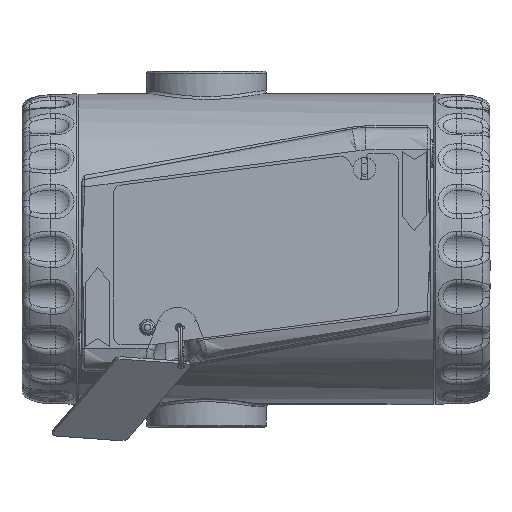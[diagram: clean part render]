
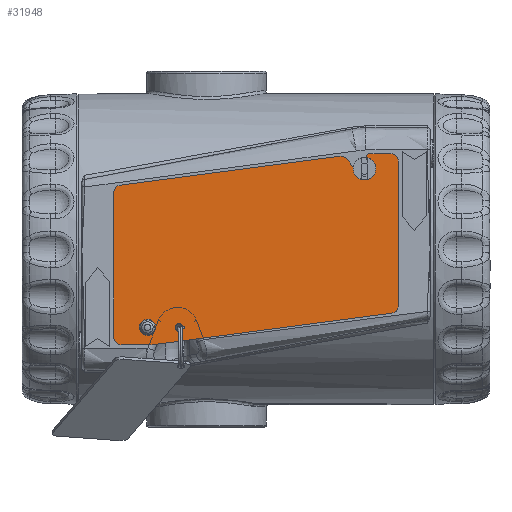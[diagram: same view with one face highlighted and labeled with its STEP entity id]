
A CAD part, left-side view. The second image highlights one B-rep face of the part: STEP entity #31948.
In plain terms, the highlighted planar face has unit normal (-1, 0, 0) as drawn and (0, 0, 1) by its records, which use the part's own axes.
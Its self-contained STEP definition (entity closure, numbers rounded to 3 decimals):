
#2491=FACE_BOUND('',#10447,.T.);
#2492=FACE_BOUND('',#10448,.T.);
#3018=PLANE('',#36043);
#4495=LINE('',#74610,#6013);
#4499=LINE('',#74622,#6017);
#4503=LINE('',#74634,#6021);
#4507=LINE('',#74646,#6025);
#4511=LINE('',#74658,#6029);
#4514=LINE('',#74664,#6032);
#4518=LINE('',#74676,#6036);
#4522=LINE('',#74687,#6040);
#6013=VECTOR('',#44652,10.);
#6017=VECTOR('',#44664,10.);
#6021=VECTOR('',#44676,10.);
#6025=VECTOR('',#44688,10.);
#6029=VECTOR('',#44700,10.);
#6032=VECTOR('',#44705,10.);
#6036=VECTOR('',#44717,10.);
#6040=VECTOR('',#44729,10.);
#8409=FACE_OUTER_BOUND('',#10446,.T.);
#10446=EDGE_LOOP('',(#29580,#29581,#29582,#29583,#29584,#29585,#29586,#29587,
#29588,#29589,#29590,#29591,#29592,#29593,#29594));
#10447=EDGE_LOOP('',(#29595));
#10448=EDGE_LOOP('',(#29596));
#12500=CIRCLE('',#36009,1.35);
#12502=CIRCLE('',#36012,1.);
#12503=CIRCLE('',#36014,2.);
#12505=CIRCLE('',#36018,2.);
#12507=CIRCLE('',#36022,1.);
#12509=CIRCLE('',#36026,2.);
#12511=CIRCLE('',#36030,2.);
#12513=CIRCLE('',#36035,2.);
#12515=CIRCLE('',#36039,2.);
#15404=VERTEX_POINT('',#74590);
#15406=VERTEX_POINT('',#74596);
#15407=VERTEX_POINT('',#74600);
#15408=VERTEX_POINT('',#74601);
#15411=VERTEX_POINT('',#74609);
#15413=VERTEX_POINT('',#74615);
#15415=VERTEX_POINT('',#74621);
#15417=VERTEX_POINT('',#74627);
#15419=VERTEX_POINT('',#74633);
#15421=VERTEX_POINT('',#74639);
#15423=VERTEX_POINT('',#74645);
#15425=VERTEX_POINT('',#74651);
#15427=VERTEX_POINT('',#74657);
#15429=VERTEX_POINT('',#74663);
#15431=VERTEX_POINT('',#74669);
#15433=VERTEX_POINT('',#74675);
#15435=VERTEX_POINT('',#74681);
#20120=EDGE_CURVE('',#15404,#15404,#12500,.T.);
#20123=EDGE_CURVE('',#15406,#15406,#12502,.T.);
#20124=EDGE_CURVE('',#15407,#15408,#12503,.T.);
#20128=EDGE_CURVE('',#15408,#15411,#4495,.T.);
#20131=EDGE_CURVE('',#15411,#15413,#12505,.T.);
#20134=EDGE_CURVE('',#15413,#15415,#4499,.T.);
#20137=EDGE_CURVE('',#15415,#15417,#12507,.T.);
#20140=EDGE_CURVE('',#15417,#15419,#4503,.T.);
#20143=EDGE_CURVE('',#15419,#15421,#12509,.T.);
#20146=EDGE_CURVE('',#15421,#15423,#4507,.T.);
#20149=EDGE_CURVE('',#15423,#15425,#12511,.T.);
#20152=EDGE_CURVE('',#15425,#15427,#4511,.T.);
#20155=EDGE_CURVE('',#15427,#15429,#4514,.T.);
#20158=EDGE_CURVE('',#15429,#15431,#12513,.T.);
#20161=EDGE_CURVE('',#15431,#15433,#4518,.T.);
#20164=EDGE_CURVE('',#15433,#15435,#12515,.T.);
#20167=EDGE_CURVE('',#15435,#15407,#4522,.T.);
#29580=ORIENTED_EDGE('',*,*,#20124,.F.);
#29581=ORIENTED_EDGE('',*,*,#20167,.F.);
#29582=ORIENTED_EDGE('',*,*,#20164,.F.);
#29583=ORIENTED_EDGE('',*,*,#20161,.F.);
#29584=ORIENTED_EDGE('',*,*,#20158,.F.);
#29585=ORIENTED_EDGE('',*,*,#20155,.F.);
#29586=ORIENTED_EDGE('',*,*,#20152,.F.);
#29587=ORIENTED_EDGE('',*,*,#20149,.F.);
#29588=ORIENTED_EDGE('',*,*,#20146,.F.);
#29589=ORIENTED_EDGE('',*,*,#20143,.F.);
#29590=ORIENTED_EDGE('',*,*,#20140,.F.);
#29591=ORIENTED_EDGE('',*,*,#20137,.F.);
#29592=ORIENTED_EDGE('',*,*,#20134,.F.);
#29593=ORIENTED_EDGE('',*,*,#20131,.F.);
#29594=ORIENTED_EDGE('',*,*,#20128,.F.);
#29595=ORIENTED_EDGE('',*,*,#20120,.T.);
#29596=ORIENTED_EDGE('',*,*,#20123,.T.);
#31948=ADVANCED_FACE('',(#8409,#2491,#2492),#3018,.T.);
#36009=AXIS2_PLACEMENT_3D('',#74592,#44633,#44634);
#36012=AXIS2_PLACEMENT_3D('',#74598,#44640,#44641);
#36014=AXIS2_PLACEMENT_3D('',#74602,#44644,#44645);
#36018=AXIS2_PLACEMENT_3D('',#74616,#44657,#44658);
#36022=AXIS2_PLACEMENT_3D('',#74628,#44669,#44670);
#36026=AXIS2_PLACEMENT_3D('',#74640,#44681,#44682);
#36030=AXIS2_PLACEMENT_3D('',#74652,#44693,#44694);
#36035=AXIS2_PLACEMENT_3D('',#74670,#44710,#44711);
#36039=AXIS2_PLACEMENT_3D('',#74682,#44722,#44723);
#36043=AXIS2_PLACEMENT_3D('',#74690,#44733,#44734);
#44633=DIRECTION('center_axis',(0.,0.,-1.));
#44634=DIRECTION('ref_axis',(-1.,0.,0.));
#44640=DIRECTION('center_axis',(0.,0.,-1.));
#44641=DIRECTION('ref_axis',(-1.,0.,0.));
#44644=DIRECTION('center_axis',(0.,0.,-1.));
#44645=DIRECTION('ref_axis',(0.766,0.643,0.));
#44652=DIRECTION('',(0.643,-0.766,0.));
#44657=DIRECTION('center_axis',(0.,0.,1.));
#44658=DIRECTION('ref_axis',(0.766,0.643,0.));
#44664=DIRECTION('',(-0.643,0.766,0.));
#44669=DIRECTION('center_axis',(0.,0.,-1.));
#44670=DIRECTION('ref_axis',(0.,1.,0.));
#44676=DIRECTION('',(1.,0.,0.));
#44681=DIRECTION('center_axis',(0.,0.,-1.));
#44682=DIRECTION('ref_axis',(1.,0.,0.));
#44688=DIRECTION('',(0.,-1.,0.));
#44693=DIRECTION('center_axis',(0.,0.,-1.));
#44694=DIRECTION('ref_axis',(0.131,-0.991,0.));
#44700=DIRECTION('',(-0.991,-0.131,0.));
#44705=DIRECTION('',(-1.,0.,0.));
#44710=DIRECTION('center_axis',(0.,0.,-1.));
#44711=DIRECTION('ref_axis',(-1.,0.,0.));
#44717=DIRECTION('',(0.,1.,0.));
#44722=DIRECTION('center_axis',(0.,0.,-1.));
#44723=DIRECTION('ref_axis',(-0.131,0.991,0.));
#44729=DIRECTION('',(0.991,0.131,0.));
#44733=DIRECTION('center_axis',(0.,0.,1.));
#44734=DIRECTION('ref_axis',(1.,0.,0.));
#74590=CARTESIAN_POINT('',(10.35,4.599,0.7));
#74592=CARTESIAN_POINT('Origin',(9.,4.599,0.7));
#74596=CARTESIAN_POINT('',(18.4,4.599,0.7));
#74598=CARTESIAN_POINT('Origin',(17.4,4.599,0.7));
#74600=CARTESIAN_POINT('',(60.389,50.327,0.7));
#74601=CARTESIAN_POINT('',(62.182,49.63,0.7));
#74602=CARTESIAN_POINT('Origin',(60.65,48.344,0.7));
#74609=CARTESIAN_POINT('',(65.468,45.714,0.7));
#74610=CARTESIAN_POINT('',(65.468,45.714,0.7));
#74615=CARTESIAN_POINT('',(68.532,48.286,0.7));
#74616=CARTESIAN_POINT('Origin',(67.,47.,0.7));
#74621=CARTESIAN_POINT('',(67.633,49.357,0.7));
#74622=CARTESIAN_POINT('',(67.633,49.357,0.7));
#74627=CARTESIAN_POINT('',(68.399,51.,0.7));
#74628=CARTESIAN_POINT('Origin',(68.399,50.,0.7));
#74633=CARTESIAN_POINT('',(74.,51.,0.7));
#74634=CARTESIAN_POINT('',(74.,51.,0.7));
#74639=CARTESIAN_POINT('',(76.,49.,0.7));
#74640=CARTESIAN_POINT('Origin',(74.,49.,0.7));
#74645=CARTESIAN_POINT('',(76.,10.377,0.7));
#74646=CARTESIAN_POINT('',(76.,10.377,0.7));
#74651=CARTESIAN_POINT('',(74.261,8.394,0.7));
#74652=CARTESIAN_POINT('Origin',(74.,10.377,0.7));
#74657=CARTESIAN_POINT('',(10.5,0.,0.7));
#74658=CARTESIAN_POINT('',(10.5,0.,0.7));
#74663=CARTESIAN_POINT('',(2.,0.,0.7));
#74664=CARTESIAN_POINT('',(2.,0.,0.7));
#74669=CARTESIAN_POINT('',(0.,2.,0.7));
#74670=CARTESIAN_POINT('Origin',(2.,2.,0.7));
#74675=CARTESIAN_POINT('',(0.,40.623,0.7));
#74676=CARTESIAN_POINT('',(0.,40.623,0.7));
#74681=CARTESIAN_POINT('',(1.739,42.606,0.7));
#74682=CARTESIAN_POINT('Origin',(2.,40.623,0.7));
#74687=CARTESIAN_POINT('',(60.389,50.327,0.7));
#74690=CARTESIAN_POINT('Origin',(39.077,26.228,0.7));
